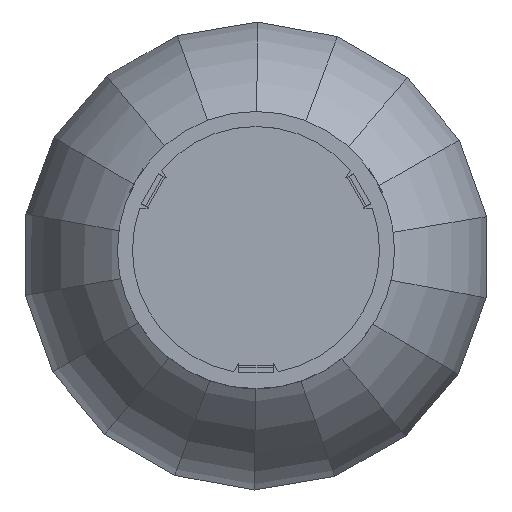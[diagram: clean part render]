
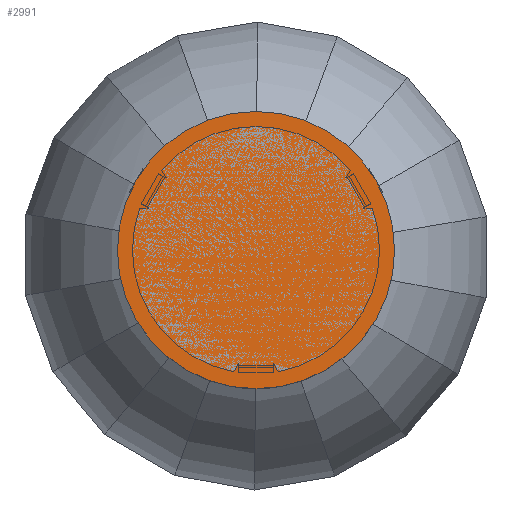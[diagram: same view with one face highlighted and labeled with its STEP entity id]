
A CAD part, top view. The second image highlights one B-rep face of the part: STEP entity #2991.
In plain terms, the highlighted planar face has unit normal (0, 0, 1).
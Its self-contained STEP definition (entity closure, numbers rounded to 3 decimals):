
#648=FACE_OUTER_BOUND('',#855,.T.);
#855=EDGE_LOOP('',(#1988));
#1070=CIRCLE('',#3237,60.);
#1247=VERTEX_POINT('',#4642);
#1532=EDGE_CURVE('',#1247,#1247,#1070,.T.);
#1988=ORIENTED_EDGE('',*,*,#1532,.T.);
#2900=PLANE('',#3236);
#2991=ADVANCED_FACE('',(#648),#2900,.F.);
#3236=AXIS2_PLACEMENT_3D('',#4641,#3642,#3643);
#3237=AXIS2_PLACEMENT_3D('',#4643,#3644,#3645);
#3642=DIRECTION('center_axis',(0.,0.,
-1.));
#3643=DIRECTION('ref_axis',(0.866,-0.5,0.));
#3644=DIRECTION('center_axis',(0.,0.,
1.));
#3645=DIRECTION('ref_axis',(-0.866,0.5,0.));
#4641=CARTESIAN_POINT('Origin',(0.,0.,
1574.2));
#4642=CARTESIAN_POINT('',(51.962,-30.,1574.2));
#4643=CARTESIAN_POINT('Origin',(0.,0.,
1574.2));
